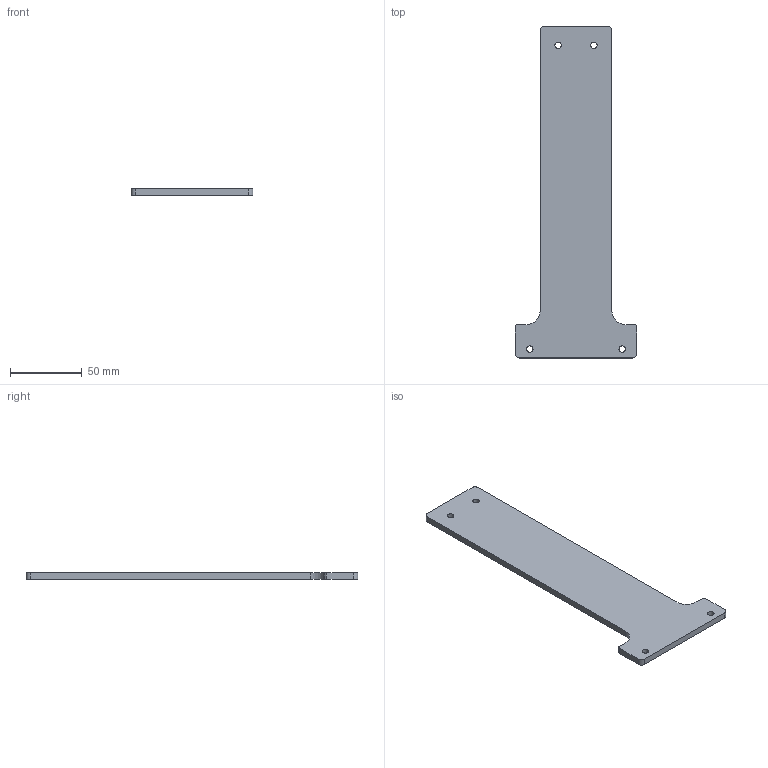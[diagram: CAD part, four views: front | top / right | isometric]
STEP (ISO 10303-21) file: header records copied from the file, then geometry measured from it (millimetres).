
FILE_DESCRIPTION (( 'STEP AP214' ), '1' );
FILE_NAME ('MONO_038-p321_01.STEP', '2025-09-23T04:10:07', ( '' ), ( '' ), 'SwSTEP 2.0', 'SolidWorks 2024', '' );
FILE_SCHEMA (( 'AUTOMOTIVE_DESIGN' ));
Length unit declared in the file: millimetre
Products named in the file (1): MONO_038-p321_01
Bounding box: 85 x 231.75 x 4.5 mm (x, y, z)
Volume: 55673.4 mm3; surface area: 27781.3 mm2
Topology: 1 solids, 1 shells, 22 faces, 60 edges, 40 vertices
Faces by surface type: cylinder 12, plane 10
Full cylindrical faces by diameter (mm): 4.5 x4
Entity records: 727 total; most frequent: DIRECTION 126, CARTESIAN_POINT 119, ORIENTED_EDGE 112, EDGE_CURVE 56, AXIS2_PLACEMENT_3D 47, VERTEX_POINT 40, EDGE_LOOP 34, VECTOR 32
